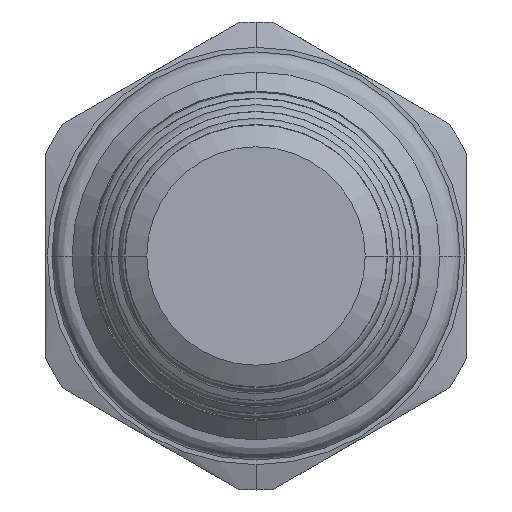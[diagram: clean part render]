
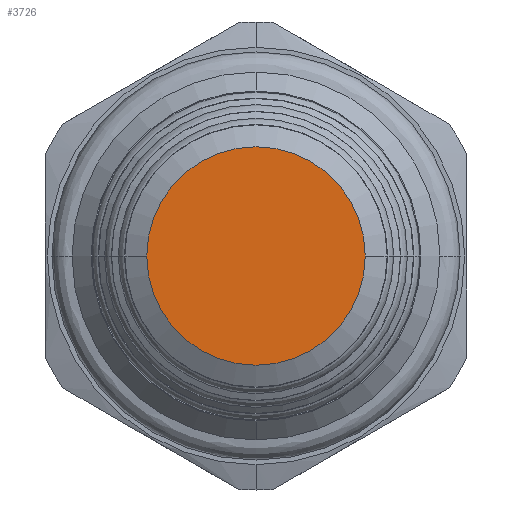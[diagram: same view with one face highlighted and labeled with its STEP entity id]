
A CAD part, front view. The second image highlights one B-rep face of the part: STEP entity #3726.
In plain terms, the highlighted planar face has unit normal (0, -1, 0).
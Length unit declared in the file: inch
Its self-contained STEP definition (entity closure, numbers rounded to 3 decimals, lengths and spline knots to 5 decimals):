
#449=CARTESIAN_POINT('',(0.,-2.45827,0.));
#450=DIRECTION('',(0.,1.,0.));
#451=DIRECTION('',(1.,0.,0.));
#452=AXIS2_PLACEMENT_3D('',#449,#450,#451);
#454=CARTESIAN_POINT('',(0.,-2.45827,0.));
#455=DIRECTION('',(0.,1.,0.));
#456=DIRECTION('',(-1.,0.,0.));
#457=AXIS2_PLACEMENT_3D('',#454,#455,#456);
#2667=CARTESIAN_POINT('',(0.25904,-2.45827,0.));
#2668=CARTESIAN_POINT('',(-0.25904,-2.45827,0.));
#2669=VERTEX_POINT('',#2667);
#2670=VERTEX_POINT('',#2668);
#3716=CARTESIAN_POINT('',(0.,-2.45827,0.));
#3717=DIRECTION('',(0.,1.,0.));
#3718=DIRECTION('',(1.,0.,0.));
#3719=AXIS2_PLACEMENT_3D('',#3716,#3717,#3718);
#3720=PLANE('',#3719);
#3721=ORIENTED_EDGE('',*,*,#3706,.T.);
#3723=ORIENTED_EDGE('',*,*,#3722,.T.);
#3724=EDGE_LOOP('',(#3721,#3723));
#3725=FACE_OUTER_BOUND('',#3724,.F.);
#3726=ADVANCED_FACE('',(#3725),#3720,.F.);
#453=CIRCLE('',#452,0.25904);
#458=CIRCLE('',#457,0.25904);
#3706=EDGE_CURVE('',#2669,#2670,#453,.T.);
#3722=EDGE_CURVE('',#2670,#2669,#458,.T.);
